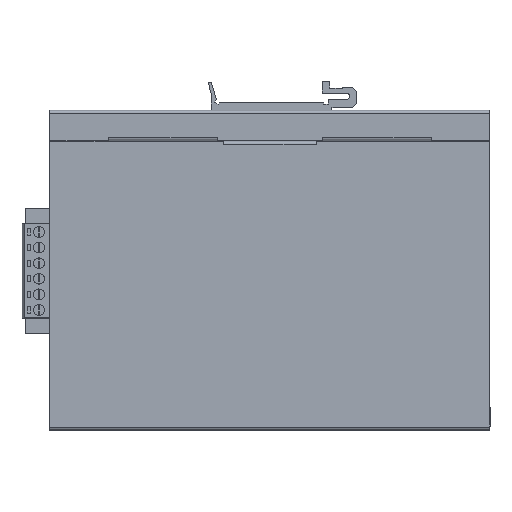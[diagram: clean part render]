
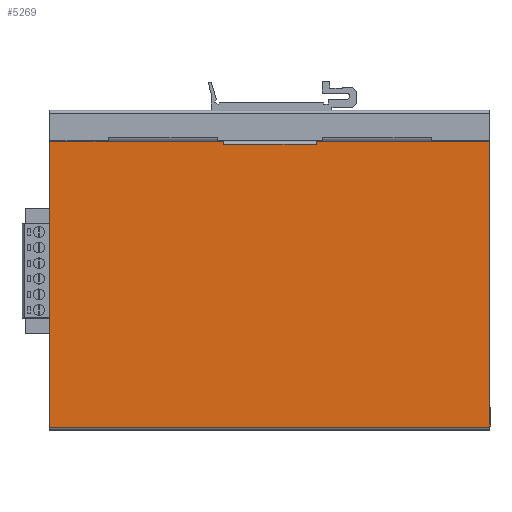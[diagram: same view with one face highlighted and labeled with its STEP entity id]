
A CAD part, top view. The second image highlights one B-rep face of the part: STEP entity #5269.
In plain terms, the highlighted planar face has unit normal (0, 0, 1).
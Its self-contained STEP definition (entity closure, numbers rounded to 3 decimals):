
#69 = CARTESIAN_POINT ( 'NONE',  ( -107.074, -7.82, 0. ) ) ;
#421 = CARTESIAN_POINT ( 'NONE',  ( -20.824, 0., 0. ) ) ;
#690 = LINE ( 'NONE', #6812, #4719 ) ;
#776 = EDGE_CURVE ( 'NONE', #1717, #12976, #19351, .T. ) ;
#1122 = PLANE ( 'NONE',  #1385 ) ;
#1344 = CARTESIAN_POINT ( 'NONE',  ( -107.074, 84.68, 0. ) ) ;
#1385 = AXIS2_PLACEMENT_3D ( 'NONE', #20303, #13223, #14997 ) ;
#1701 = VERTEX_POINT ( 'NONE', #7880 ) ;
#1717 = VERTEX_POINT ( 'NONE', #13184 ) ;
#2280 = ORIENTED_EDGE ( 'NONE', *, *, #776, .T. ) ;
#2436 = VERTEX_POINT ( 'NONE', #2609 ) ;
#2609 = CARTESIAN_POINT ( 'NONE',  ( -20.824, 84.68, 0. ) ) ;
#3853 = CARTESIAN_POINT ( 'NONE',  ( -20.824, 83.77, 0. ) ) ;
#4211 = DIRECTION ( 'NONE',  ( 1., 0., 0. ) ) ;
#4296 = CARTESIAN_POINT ( 'NONE',  ( -107.074, -7.82, 0. ) ) ;
#4414 = VECTOR ( 'NONE', #10536, 1000. ) ;
#4719 = VECTOR ( 'NONE', #17404, 1000. ) ;
#4905 = EDGE_CURVE ( 'NONE', #12976, #16765, #9888, .T. ) ;
#5021 = EDGE_CURVE ( 'NONE', #16765, #1701, #7182, .T. ) ;
#5269 = ADVANCED_FACE ( 'NONE', ( #6633 ), #1122, .T. ) ;
#5612 = DIRECTION ( 'NONE',  ( 0., 1., 0. ) ) ;
#6137 = VECTOR ( 'NONE', #16668, 1000. ) ;
#6216 = LINE ( 'NONE', #421, #14080 ) ;
#6633 = FACE_OUTER_BOUND ( 'NONE', #15233, .T. ) ;
#6812 = CARTESIAN_POINT ( 'NONE',  ( -20.824, 83.77, 0. ) ) ;
#6916 = EDGE_CURVE ( 'NONE', #2436, #21168, #6216, .T. ) ;
#7182 = LINE ( 'NONE', #4296, #21081 ) ;
#7880 = CARTESIAN_POINT ( 'NONE',  ( 35.426, -7.82, 0. ) ) ;
#7964 = CARTESIAN_POINT ( 'NONE',  ( 35.426, 84.68, 0. ) ) ;
#8253 = VERTEX_POINT ( 'NONE', #7964 ) ;
#8628 = EDGE_CURVE ( 'NONE', #18105, #1717, #13793, .T. ) ;
#9506 = CARTESIAN_POINT ( 'NONE',  ( -107.074, 84.68, 0. ) ) ;
#9888 = LINE ( 'NONE', #1344, #6137 ) ;
#10219 = VECTOR ( 'NONE', #5612, 1000. ) ;
#10525 = EDGE_CURVE ( 'NONE', #1701, #8253, #20213, .T. ) ;
#10536 = DIRECTION ( 'NONE',  ( -1., 0., 0. ) ) ;
#10665 = ORIENTED_EDGE ( 'NONE', *, *, #8628, .T. ) ;
#12280 = ORIENTED_EDGE ( 'NONE', *, *, #18492, .T. ) ;
#12763 = CARTESIAN_POINT ( 'NONE',  ( -107.074, 84.68, 0. ) ) ;
#12972 = DIRECTION ( 'NONE',  ( 0., 1., 0. ) ) ;
#12976 = VERTEX_POINT ( 'NONE', #9506 ) ;
#13184 = CARTESIAN_POINT ( 'NONE',  ( -50.824, 84.68, 0. ) ) ;
#13223 = DIRECTION ( 'NONE',  ( 0., 0., 1. ) ) ;
#13397 = ORIENTED_EDGE ( 'NONE', *, *, #5021, .T. ) ;
#13793 = LINE ( 'NONE', #17603, #10219 ) ;
#13875 = ORIENTED_EDGE ( 'NONE', *, *, #10525, .T. ) ;
#14080 = VECTOR ( 'NONE', #21267, 1000. ) ;
#14249 = VECTOR ( 'NONE', #12972, 1000. ) ;
#14354 = ORIENTED_EDGE ( 'NONE', *, *, #15481, .T. ) ;
#14997 = DIRECTION ( 'NONE',  ( 1., 0., 0. ) ) ;
#15233 = EDGE_LOOP ( 'NONE', ( #12280, #19143, #14354, #10665, #2280, #20805, #13397, #13875 ) ) ;
#15481 = EDGE_CURVE ( 'NONE', #21168, #18105, #690, .T. ) ;
#16131 = LINE ( 'NONE', #21129, #19413 ) ;
#16482 = CARTESIAN_POINT ( 'NONE',  ( 35.426, 84.68, 0. ) ) ;
#16668 = DIRECTION ( 'NONE',  ( 0., -1., 0. ) ) ;
#16765 = VERTEX_POINT ( 'NONE', #69 ) ;
#17404 = DIRECTION ( 'NONE',  ( -1., 0., 0. ) ) ;
#17603 = CARTESIAN_POINT ( 'NONE',  ( -50.824, 0., 0. ) ) ;
#18105 = VERTEX_POINT ( 'NONE', #20083 ) ;
#18492 = EDGE_CURVE ( 'NONE', #8253, #2436, #16131, .T. ) ;
#19143 = ORIENTED_EDGE ( 'NONE', *, *, #6916, .T. ) ;
#19351 = LINE ( 'NONE', #12763, #4414 ) ;
#19413 = VECTOR ( 'NONE', #21050, 1000. ) ;
#20083 = CARTESIAN_POINT ( 'NONE',  ( -50.824, 83.77, 0. ) ) ;
#20213 = LINE ( 'NONE', #16482, #14249 ) ;
#20303 = CARTESIAN_POINT ( 'NONE',  ( 0., 0., 0. ) ) ;
#20805 = ORIENTED_EDGE ( 'NONE', *, *, #4905, .T. ) ;
#21050 = DIRECTION ( 'NONE',  ( -1., 0., 0. ) ) ;
#21081 = VECTOR ( 'NONE', #4211, 1000. ) ;
#21129 = CARTESIAN_POINT ( 'NONE',  ( -107.074, 84.68, 0. ) ) ;
#21168 = VERTEX_POINT ( 'NONE', #3853 ) ;
#21267 = DIRECTION ( 'NONE',  ( 0., -1., 0. ) ) ;
